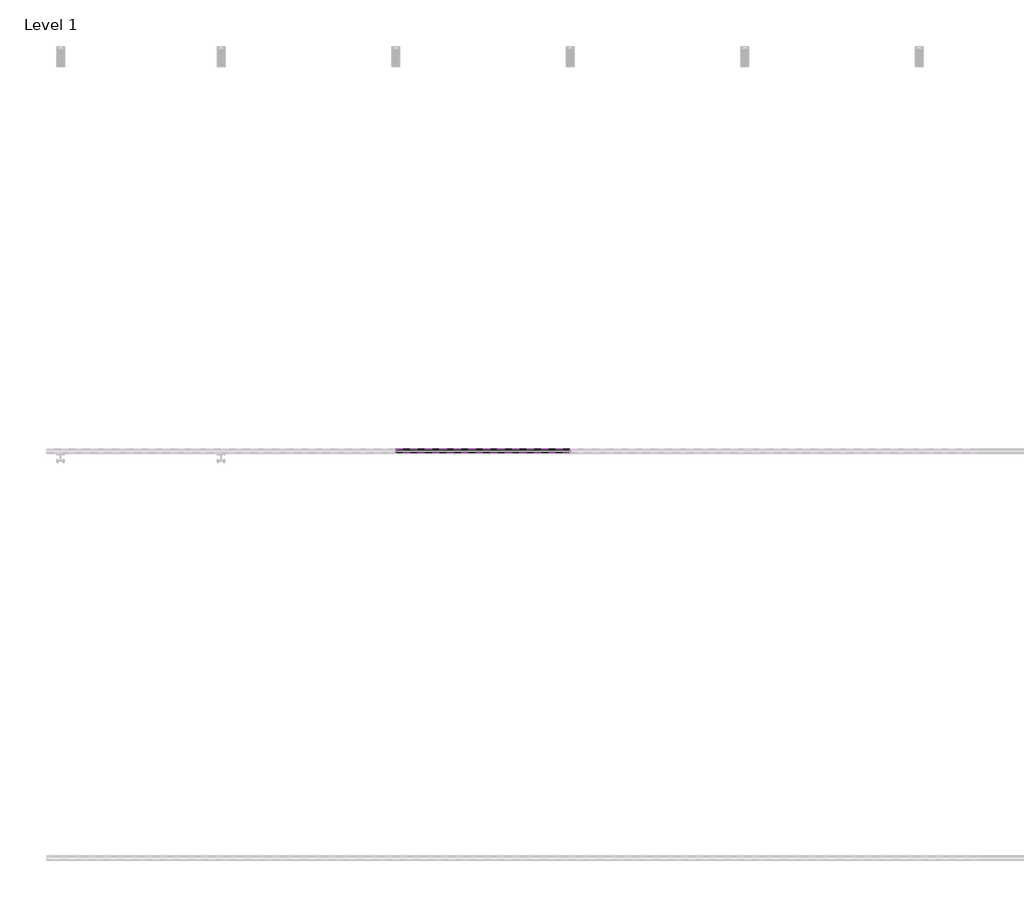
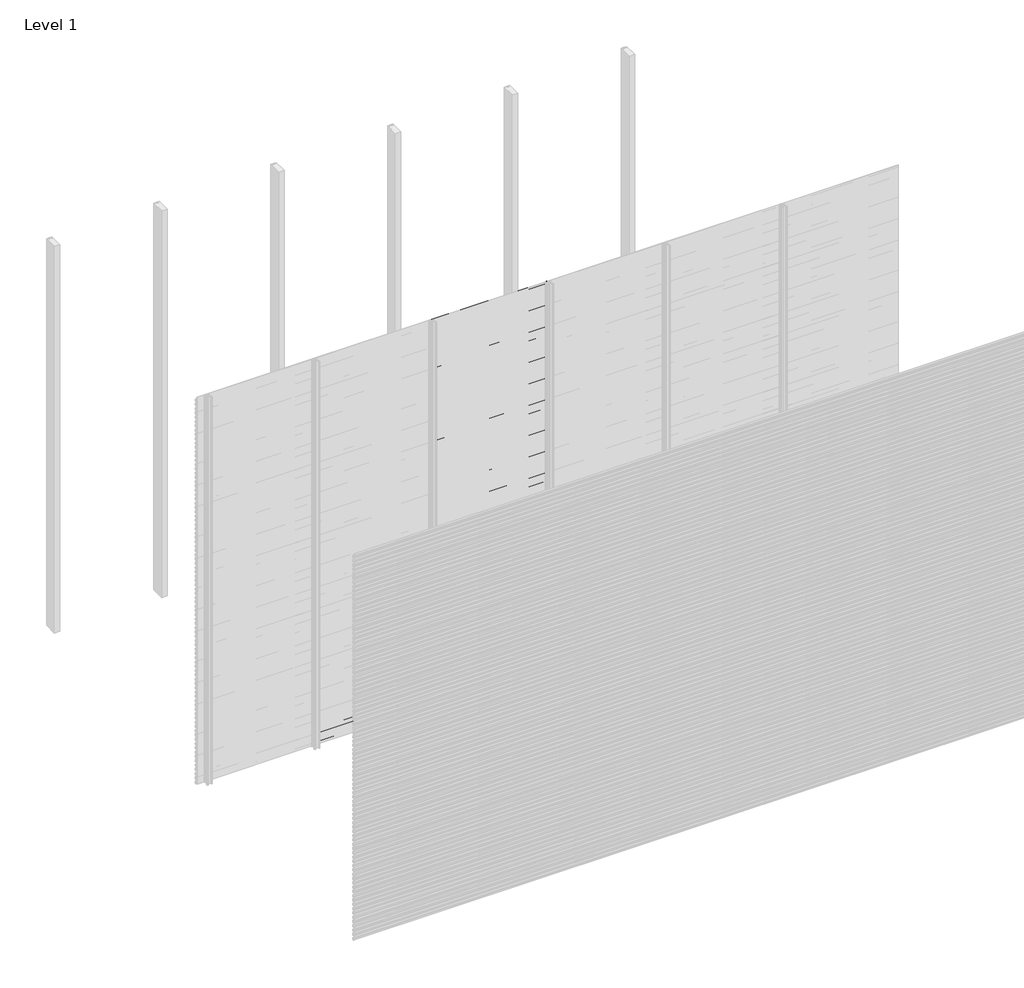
# One storey, part 26 of 96: 76 proxies.
"""IFC4 building model written with IfcOpenShell, lengths in millimetres."""

import ifcopenshell
import ifcopenshell.guid

model = None  # the IFC model being written
_history = None  # IfcOwnerHistory: only IFC2X3 demands one
_inside = {}  # id of a spatial element -> (the spatial element, [elements in it])
_under = {}  # id of a project, library or spatial element -> (it, [spatial elements below it])
_declared = {}  # id of a project -> (the project, [libraries it declares])
_typed = {}  # id of a type object -> (the type object, [elements of that type])
_made_of = {}  # id of a material, layer set ... -> (it, [elements and type objects made of it])


def new_model(schema):
    """Start an empty IFC model of exactly this schema.

    Asked for "IFC4X3", IfcOpenShell would pick the latest addendum, in which some entities
    have other attributes; the version numbers below select the first issue.
    IFC2X3 requires an IfcOwnerHistory on every rooted entity: one is made here for all.
    """
    global model, _history
    if schema == "IFC4X3":
        model = ifcopenshell.file(schema_version=(4, 3, 0, 0))
    else:
        model = ifcopenshell.file(schema=schema)
    _inside.clear()
    _under.clear()
    _declared.clear()
    _typed.clear()
    _made_of.clear()
    _history = None
    if model.schema == "IFC2X3":
        org = make("IfcOrganization", Name="unknown")
        user = make(
            "IfcPersonAndOrganization",
            ThePerson=make("IfcPerson", FamilyName="unknown"),
            TheOrganization=org,
        )
        app = make(
            "IfcApplication",
            ApplicationDeveloper=org,
            Version="unknown",
            ApplicationFullName="unknown",
            ApplicationIdentifier="unknown",
        )
        _history = make(
            "IfcOwnerHistory",
            OwningUser=user,
            OwningApplication=app,
            ChangeAction="ADDED",
            CreationDate=0,
        )
    return model


def make(cls, **values):
    """One entity of the class cls with the attributes given. An attribute that is None is left unset."""
    return model.create_entity(
        cls, **{name: value for name, value in values.items() if value is not None}
    )


def rooted(cls, **values):
    """An entity with a GlobalId (a new one), such as an element, a storey or a relation."""
    return make(cls, GlobalId=ifcopenshell.guid.new(), OwnerHistory=_history, **values)


def si_unit(unit_type, name, prefix=None):
    """IfcSIUnit, for example si_unit("LENGTHUNIT", "METRE", prefix="MILLI")."""
    return make("IfcSIUnit", UnitType=unit_type, Prefix=prefix, Name=name)


def assignment(units):
    """IfcUnitAssignment: the units of a project."""
    return None if units is None else make("IfcUnitAssignment", Units=units)


def point(xyz):
    """IfcCartesianPoint."""
    return None if xyz is None else make("IfcCartesianPoint", Coordinates=xyz)


def direction(xyz):
    """IfcDirection."""
    return None if xyz is None else make("IfcDirection", DirectionRatios=xyz)


def frame(location, z_axis=None, x_axis=None):
    """IfcAxis2Placement3D, a coordinate frame: its origin and axes. An axis left out is left unset."""
    return make(
        "IfcAxis2Placement3D",
        Location=point(location),
        Axis=direction(z_axis),
        RefDirection=direction(x_axis),
    )


def origin():
    """The frame at (0, 0, 0) with its axes left unset."""
    return frame((0.0, 0.0, 0.0))


def place(relative_to, where):
    """IfcLocalPlacement: puts the frame where relative to a parent placement (None: the world)."""
    return make(
        "IfcLocalPlacement", PlacementRelTo=relative_to, RelativePlacement=where
    )


def context(
    kind, dimensions, precision=None, world=None, true_north=None, identifier=None
):
    """IfcGeometricRepresentationContext, for example the 3D "Model" context."""
    return make(
        "IfcGeometricRepresentationContext",
        ContextIdentifier=identifier,
        ContextType=kind,
        CoordinateSpaceDimension=dimensions,
        Precision=precision,
        WorldCoordinateSystem=world,
        TrueNorth=true_north,
    )


def project(units=None, contexts=None):
    """IfcProject with its units and contexts."""
    return rooted(
        "IfcProject",
        Name="project",
        RepresentationContexts=contexts,
        UnitsInContext=assignment(units),
    )


def spatial(cls, under=None, at=None, **own):
    """A site, building, storey or space (cls), placed at a placement, below another one or the project."""
    s = rooted(cls, ObjectPlacement=at, **own)
    if under is not None:
        _under.setdefault(under.id(), (under, []))[1].append(s)
    return s


def polyline(points):
    """IfcPolyline through the points."""
    return make("IfcPolyline", Points=[point(p) for p in points])


def outline(outer, holes=None, kind="AREA"):
    """IfcArbitraryClosedProfileDef: a profile drawn as a closed curve; with holes, ...WithVoids."""
    if holes is None:
        return make("IfcArbitraryClosedProfileDef", ProfileType=kind, OuterCurve=outer)
    return make(
        "IfcArbitraryProfileDefWithVoids",
        ProfileType=kind,
        OuterCurve=outer,
        InnerCurves=holes,
    )


def extrude(swept, where, along, depth):
    """IfcExtrudedAreaSolid: the profile swept, set in the frame where, extruded along a direction by depth."""
    return make(
        "IfcExtrudedAreaSolid",
        SweptArea=swept,
        Position=where,
        ExtrudedDirection=direction(along),
        Depth=depth,
    )


def shape(context_of_items, identifier, shape_type, items):
    """IfcShapeRepresentation: the items that make up one representation, for example the "Body"."""
    return make(
        "IfcShapeRepresentation",
        ContextOfItems=context_of_items,
        RepresentationIdentifier=identifier,
        RepresentationType=shape_type,
        Items=items,
    )


def made_of(thing, what):
    """Note that an element or type object is made of a material, layer set ...; save() writes the relation."""
    if what is not None:
        _made_of.setdefault(what.id(), (what, []))[1].append(thing)
    return thing


def element(
    cls,
    number,
    at=None,
    inside=None,
    cuts=None,
    type_object=None,
    material=None,
    context=None,
    identifier="Body",
    shape_type=None,
    held_by="IfcProductDefinitionShape",
    body=None,
    shapes=None,
    **own,
):
    """One element of the class cls, such as IfcWall. Its Tag is "e" and its number.

    at: its placement. inside: the storey or other place that contains it. cuts: it is an
    opening in that element (IfcRelVoidsElement). A single representation is given by context,
    identifier, shape_type and body (its items); several are given by shapes. held_by: the class
    of the entity that holds the representations. save() writes the other relations.
    """
    e = rooted(cls, Tag="e%d" % number, ObjectPlacement=at, **own)
    if body is not None:
        shapes = [shape(context, identifier, shape_type, body)]
    if shapes is not None:
        e.Representation = make(held_by, Representations=shapes)
    if inside is not None:
        _inside.setdefault(inside.id(), (inside, []))[1].append(e)
    if cuts is not None:
        rooted(
            "IfcRelVoidsElement", RelatingBuildingElement=cuts, RelatedOpeningElement=e
        )
    if type_object is not None:
        _typed.setdefault(type_object.id(), (type_object, []))[1].append(e)
    return made_of(e, material)


def aggregate(whole, parts):
    """IfcRelAggregates: a whole, such as a stair, and the parts it consists of."""
    return rooted("IfcRelAggregates", RelatingObject=whole, RelatedObjects=parts)


def save(model, path):
    """Write the relations noted so far, then the file.

    IfcRelAggregates (storeys below a building ...), IfcRelContainedInSpatialStructure (elements
    in a storey), IfcRelDefinesByType, IfcRelAssociatesMaterial and IfcRelDeclares: one each for
    every whole, place, type object, material and project.
    """
    for whole, parts in _under.values():
        aggregate(whole, parts)
    for where, things in _inside.values():
        rooted(
            "IfcRelContainedInSpatialStructure",
            RelatedElements=things,
            RelatingStructure=where,
        )
    for kind, things in _typed.values():
        rooted("IfcRelDefinesByType", RelatedObjects=things, RelatingType=kind)
    for what, things in _made_of.values():
        rooted("IfcRelAssociatesMaterial", RelatedObjects=things, RelatingMaterial=what)
    for by, libraries in _declared.values():
        rooted("IfcRelDeclares", RelatingContext=by, RelatedDefinitions=libraries)
    model.write(path)


model = new_model("IFC4")

# Units and contexts
model_context = context("Model", 3, world=origin())
ifc_project = project(units=[si_unit("LENGTHUNIT", "METRE", prefix="MILLI")], contexts=[model_context])

# Site, building, storey
site = spatial("IfcSite", under=ifc_project)
building = spatial("IfcBuilding", under=site)
storey = spatial("IfcBuildingStorey", under=building, Name="Level 1", Elevation=0.0)

# Proxies
placement = place(None, origin())
element("IfcBuildingElementProxy", 1, Name="Wall Sweeps", at=placement, inside=storey, context=model_context, shape_type="SweptSolid", body=[
    extrude(outline(polyline([(-41977.6, 207.8655033), (-41977.6, 193.5779188), (-41982.4114965, 190.8), (-41982.4114965, 192.0701706), (-41978.85, 194.1264016), (-41978.85, 207.1437382), (-41998.0, 218.2000799), (-41998.0, 233.1), (-41996.75, 233.1), (-41996.75, 218.9217609), (-41977.6, 207.8655033)])), frame((857.1428571, 0.0, 0.0), z_axis=(1.0, 0.0, 0.0), x_axis=(0.0, 1.0, 0.0)), (0.0, 0.0, 1.0), 857.1428571),
])
element("IfcBuildingElementProxy", 2, Name="Wall Sweeps", at=placement, inside=storey, context=model_context, shape_type="SweptSolid", body=[
    extrude(outline(polyline([(-41977.6, 174.5655033), (-41977.6, 160.2779188), (-41982.4114965, 157.5), (-41982.4114965, 158.7701706), (-41978.85, 160.8264016), (-41978.85, 173.8437382), (-41998.0, 184.9000799), (-41998.0, 199.8), (-41996.75, 199.8), (-41996.75, 185.6217609), (-41977.6, 174.5655033)])), frame((857.1428571, 0.0, 0.0), z_axis=(1.0, 0.0, 0.0), x_axis=(0.0, 1.0, 0.0)), (0.0, 0.0, 1.0), 857.1428571),
])
element("IfcBuildingElementProxy", 3, Name="Wall Sweeps", at=placement, inside=storey, context=model_context, shape_type="SweptSolid", body=[
    extrude(outline(polyline([(-41977.6, 141.2655033), (-41977.6, 126.9779188), (-41982.4114965, 124.2), (-41982.4114965, 125.4701706), (-41978.85, 127.5264016), (-41978.85, 140.5437382), (-41998.0, 151.6000799), (-41998.0, 166.5), (-41996.75, 166.5), (-41996.75, 152.3217609), (-41977.6, 141.2655033)])), frame((857.1428571, 0.0, 0.0), z_axis=(1.0, 0.0, 0.0), x_axis=(0.0, 1.0, 0.0)), (0.0, 0.0, 1.0), 857.1428571),
])
element("IfcBuildingElementProxy", 4, Name="Wall Sweeps", at=placement, inside=storey, context=model_context, shape_type="SweptSolid", body=[
    extrude(outline(polyline([(-41977.6, 107.9655033), (-41977.6, 93.6779188), (-41982.4114965, 90.9), (-41982.4114965, 92.1701706), (-41978.85, 94.2264016), (-41978.85, 107.2437382), (-41998.0, 118.3000799), (-41998.0, 133.2), (-41996.75, 133.2), (-41996.75, 119.0217609), (-41977.6, 107.9655033)])), frame((857.1428571, 0.0, 0.0), z_axis=(1.0, 0.0, 0.0), x_axis=(0.0, 1.0, 0.0)), (0.0, 0.0, 1.0), 857.1428571),
])
element("IfcBuildingElementProxy", 5, Name="Wall Sweeps", at=placement, inside=storey, context=model_context, shape_type="SweptSolid", body=[
    extrude(outline(polyline([(-41977.6, 74.6655033), (-41977.6, 60.3779188), (-41982.4114965, 57.6), (-41982.4114965, 58.8701706), (-41978.85, 60.9264016), (-41978.85, 73.9437382), (-41998.0, 85.0000799), (-41998.0, 99.9), (-41996.75, 99.9), (-41996.75, 85.7217609), (-41977.6, 74.6655033)])), frame((857.1428571, 0.0, 0.0), z_axis=(1.0, 0.0, 0.0), x_axis=(0.0, 1.0, 0.0)), (0.0, 0.0, 1.0), 857.1428571),
])
element("IfcBuildingElementProxy", 6, Name="Wall Sweeps", at=placement, inside=storey, context=model_context, shape_type="SweptSolid", body=[
    extrude(outline(polyline([(-41977.6, 41.3655033), (-41977.6, 27.0779188), (-41982.4114965, 24.3), (-41982.4114965, 25.5701706), (-41978.85, 27.6264016), (-41978.85, 40.6437382), (-41998.0, 51.7000799), (-41998.0, 66.6), (-41996.75, 66.6), (-41996.75, 52.4217609), (-41977.6, 41.3655033)])), frame((857.1428571, 0.0, 0.0), z_axis=(1.0, 0.0, 0.0), x_axis=(0.0, 1.0, 0.0)), (0.0, 0.0, 1.0), 857.1428571),
])
element("IfcBuildingElementProxy", 7, Name="Wall Sweeps", at=placement, inside=storey, context=model_context, shape_type="SweptSolid", body=[
    extrude(outline(polyline([(-41977.6, 8.0655033), (-41977.6, -6.2220812), (-41982.4114965, -9.0), (-41982.4114965, -7.7298294), (-41978.85, -5.6735984), (-41978.85, 7.3437382), (-41998.0, 18.4000799), (-41998.0, 33.3), (-41996.75, 33.3), (-41996.75, 19.1217609), (-41977.6, 8.0655033)])), frame((857.1428571, 0.0, 0.0), z_axis=(1.0, 0.0, 0.0), x_axis=(0.0, 1.0, 0.0)), (0.0, 0.0, 1.0), 857.1428571),
])
element("IfcBuildingElementProxy", 8, Name="Wall Sweeps", at=placement, inside=storey, context=model_context, shape_type="SweptSolid", body=[
    extrude(outline(polyline([(-41977.6, 2971.7655033), (-41977.6, 2957.4779188), (-41982.4114965, 2954.7), (-41982.4114965, 2955.9701706), (-41978.85, 2958.0264016), (-41978.85, 2971.0437382), (-41998.0, 2982.1000799), (-41998.0, 2997.0), (-41996.75, 2997.0), (-41996.75, 2982.8217609), (-41977.6, 2971.7655033)])), frame((1714.2857143, 0.0, 0.0), z_axis=(1.0, 0.0, 0.0), x_axis=(0.0, 1.0, 0.0)), (0.0, 0.0, 1.0), 857.1428571),
])
element("IfcBuildingElementProxy", 9, Name="Wall Sweeps", at=placement, inside=storey, context=model_context, shape_type="SweptSolid", body=[
    extrude(outline(polyline([(-41977.6, 2938.4655033), (-41977.6, 2924.1779188), (-41982.4114965, 2921.4), (-41982.4114965, 2922.6701706), (-41978.85, 2924.7264016), (-41978.85, 2937.7437382), (-41998.0, 2948.8000799), (-41998.0, 2963.7), (-41996.75, 2963.7), (-41996.75, 2949.5217609), (-41977.6, 2938.4655033)])), frame((1714.2857143, 0.0, 0.0), z_axis=(1.0, 0.0, 0.0), x_axis=(0.0, 1.0, 0.0)), (0.0, 0.0, 1.0), 857.1428571),
])
element("IfcBuildingElementProxy", 10, Name="Wall Sweeps", at=placement, inside=storey, context=model_context, shape_type="SweptSolid", body=[
    extrude(outline(polyline([(-41977.6, 2905.1655033), (-41977.6, 2890.8779188), (-41982.4114965, 2888.1), (-41982.4114965, 2889.3701706), (-41978.85, 2891.4264016), (-41978.85, 2904.4437382), (-41998.0, 2915.5000799), (-41998.0, 2930.4), (-41996.75, 2930.4), (-41996.75, 2916.2217609), (-41977.6, 2905.1655033)])), frame((1714.2857143, 0.0, 0.0), z_axis=(1.0, 0.0, 0.0), x_axis=(0.0, 1.0, 0.0)), (0.0, 0.0, 1.0), 857.1428571),
])
element("IfcBuildingElementProxy", 11, Name="Wall Sweeps", at=placement, inside=storey, context=model_context, shape_type="SweptSolid", body=[
    extrude(outline(polyline([(-41977.6, 2871.8655033), (-41977.6, 2857.5779188), (-41982.4114965, 2854.8), (-41982.4114965, 2856.0701706), (-41978.85, 2858.1264016), (-41978.85, 2871.1437382), (-41998.0, 2882.2000799), (-41998.0, 2897.1), (-41996.75, 2897.1), (-41996.75, 2882.9217609), (-41977.6, 2871.8655033)])), frame((1714.2857143, 0.0, 0.0), z_axis=(1.0, 0.0, 0.0), x_axis=(0.0, 1.0, 0.0)), (0.0, 0.0, 1.0), 857.1428571),
])
element("IfcBuildingElementProxy", 12, Name="Wall Sweeps", at=placement, inside=storey, context=model_context, shape_type="SweptSolid", body=[
    extrude(outline(polyline([(-41977.6, 2838.5655033), (-41977.6, 2824.2779188), (-41982.4114965, 2821.5), (-41982.4114965, 2822.7701706), (-41978.85, 2824.8264016), (-41978.85, 2837.8437382), (-41998.0, 2848.9000799), (-41998.0, 2863.8), (-41996.75, 2863.8), (-41996.75, 2849.6217609), (-41977.6, 2838.5655033)])), frame((1714.2857143, 0.0, 0.0), z_axis=(1.0, 0.0, 0.0), x_axis=(0.0, 1.0, 0.0)), (0.0, 0.0, 1.0), 857.1428571),
])
element("IfcBuildingElementProxy", 13, Name="Wall Sweeps", at=placement, inside=storey, context=model_context, shape_type="SweptSolid", body=[
    extrude(outline(polyline([(-41977.6, 2805.2655033), (-41977.6, 2790.9779188), (-41982.4114965, 2788.2), (-41982.4114965, 2789.4701706), (-41978.85, 2791.5264016), (-41978.85, 2804.5437382), (-41998.0, 2815.6000799), (-41998.0, 2830.5), (-41996.75, 2830.5), (-41996.75, 2816.3217609), (-41977.6, 2805.2655033)])), frame((1714.2857143, 0.0, 0.0), z_axis=(1.0, 0.0, 0.0), x_axis=(0.0, 1.0, 0.0)), (0.0, 0.0, 1.0), 857.1428571),
])
element("IfcBuildingElementProxy", 14, Name="Wall Sweeps", at=placement, inside=storey, context=model_context, shape_type="SweptSolid", body=[
    extrude(outline(polyline([(-41977.6, 2771.9655033), (-41977.6, 2757.6779188), (-41982.4114965, 2754.9), (-41982.4114965, 2756.1701706), (-41978.85, 2758.2264016), (-41978.85, 2771.2437382), (-41998.0, 2782.3000799), (-41998.0, 2797.2), (-41996.75, 2797.2), (-41996.75, 2783.0217609), (-41977.6, 2771.9655033)])), frame((1714.2857143, 0.0, 0.0), z_axis=(1.0, 0.0, 0.0), x_axis=(0.0, 1.0, 0.0)), (0.0, 0.0, 1.0), 857.1428571),
])
element("IfcBuildingElementProxy", 15, Name="Wall Sweeps", at=placement, inside=storey, context=model_context, shape_type="SweptSolid", body=[
    extrude(outline(polyline([(-41977.6, 2738.6655033), (-41977.6, 2724.3779188), (-41982.4114965, 2721.6), (-41982.4114965, 2722.8701706), (-41978.85, 2724.9264016), (-41978.85, 2737.9437382), (-41998.0, 2749.0000799), (-41998.0, 2763.9), (-41996.75, 2763.9), (-41996.75, 2749.7217609), (-41977.6, 2738.6655033)])), frame((1714.2857143, 0.0, 0.0), z_axis=(1.0, 0.0, 0.0), x_axis=(0.0, 1.0, 0.0)), (0.0, 0.0, 1.0), 857.1428571),
])
element("IfcBuildingElementProxy", 16, Name="Wall Sweeps", at=placement, inside=storey, context=model_context, shape_type="SweptSolid", body=[
    extrude(outline(polyline([(-41977.6, 2705.3655033), (-41977.6, 2691.0779188), (-41982.4114965, 2688.3), (-41982.4114965, 2689.5701706), (-41978.85, 2691.6264016), (-41978.85, 2704.6437382), (-41998.0, 2715.7000799), (-41998.0, 2730.6), (-41996.75, 2730.6), (-41996.75, 2716.4217609), (-41977.6, 2705.3655033)])), frame((1714.2857143, 0.0, 0.0), z_axis=(1.0, 0.0, 0.0), x_axis=(0.0, 1.0, 0.0)), (0.0, 0.0, 1.0), 857.1428571),
])
element("IfcBuildingElementProxy", 17, Name="Wall Sweeps", at=placement, inside=storey, context=model_context, shape_type="SweptSolid", body=[
    extrude(outline(polyline([(-41977.6, 2672.0655033), (-41977.6, 2657.7779188), (-41982.4114965, 2655.0), (-41982.4114965, 2656.2701706), (-41978.85, 2658.3264016), (-41978.85, 2671.3437382), (-41998.0, 2682.4000799), (-41998.0, 2697.3), (-41996.75, 2697.3), (-41996.75, 2683.1217609), (-41977.6, 2672.0655033)])), frame((1714.2857143, 0.0, 0.0), z_axis=(1.0, 0.0, 0.0), x_axis=(0.0, 1.0, 0.0)), (0.0, 0.0, 1.0), 857.1428571),
])
element("IfcBuildingElementProxy", 18, Name="Wall Sweeps", at=placement, inside=storey, context=model_context, shape_type="SweptSolid", body=[
    extrude(outline(polyline([(-41977.6, 2638.7655033), (-41977.6, 2624.4779188), (-41982.4114965, 2621.7), (-41982.4114965, 2622.9701706), (-41978.85, 2625.0264016), (-41978.85, 2638.0437382), (-41998.0, 2649.1000799), (-41998.0, 2664.0), (-41996.75, 2664.0), (-41996.75, 2649.8217609), (-41977.6, 2638.7655033)])), frame((1714.2857143, 0.0, 0.0), z_axis=(1.0, 0.0, 0.0), x_axis=(0.0, 1.0, 0.0)), (0.0, 0.0, 1.0), 857.1428571),
])
element("IfcBuildingElementProxy", 19, Name="Wall Sweeps", at=placement, inside=storey, context=model_context, shape_type="SweptSolid", body=[
    extrude(outline(polyline([(-41977.6, 2605.4655033), (-41977.6, 2591.1779188), (-41982.4114965, 2588.4), (-41982.4114965, 2589.6701706), (-41978.85, 2591.7264016), (-41978.85, 2604.7437382), (-41998.0, 2615.8000799), (-41998.0, 2630.7), (-41996.75, 2630.7), (-41996.75, 2616.5217609), (-41977.6, 2605.4655033)])), frame((1714.2857143, 0.0, 0.0), z_axis=(1.0, 0.0, 0.0), x_axis=(0.0, 1.0, 0.0)), (0.0, 0.0, 1.0), 857.1428571),
])
element("IfcBuildingElementProxy", 20, Name="Wall Sweeps", at=placement, inside=storey, context=model_context, shape_type="SweptSolid", body=[
    extrude(outline(polyline([(-41977.6, 2572.1655033), (-41977.6, 2557.8779188), (-41982.4114965, 2555.1), (-41982.4114965, 2556.3701706), (-41978.85, 2558.4264016), (-41978.85, 2571.4437382), (-41998.0, 2582.5000799), (-41998.0, 2597.4), (-41996.75, 2597.4), (-41996.75, 2583.2217609), (-41977.6, 2572.1655033)])), frame((1714.2857143, 0.0, 0.0), z_axis=(1.0, 0.0, 0.0), x_axis=(0.0, 1.0, 0.0)), (0.0, 0.0, 1.0), 857.1428571),
])
element("IfcBuildingElementProxy", 21, Name="Wall Sweeps", at=placement, inside=storey, context=model_context, shape_type="SweptSolid", body=[
    extrude(outline(polyline([(-41977.6, 2538.8655033), (-41977.6, 2524.5779188), (-41982.4114965, 2521.8), (-41982.4114965, 2523.0701706), (-41978.85, 2525.1264016), (-41978.85, 2538.1437382), (-41998.0, 2549.2000799), (-41998.0, 2564.1), (-41996.75, 2564.1), (-41996.75, 2549.9217609), (-41977.6, 2538.8655033)])), frame((1714.2857143, 0.0, 0.0), z_axis=(1.0, 0.0, 0.0), x_axis=(0.0, 1.0, 0.0)), (0.0, 0.0, 1.0), 857.1428571),
])
element("IfcBuildingElementProxy", 22, Name="Wall Sweeps", at=placement, inside=storey, context=model_context, shape_type="SweptSolid", body=[
    extrude(outline(polyline([(-41977.6, 2505.5655033), (-41977.6, 2491.2779188), (-41982.4114965, 2488.5), (-41982.4114965, 2489.7701706), (-41978.85, 2491.8264016), (-41978.85, 2504.8437382), (-41998.0, 2515.9000799), (-41998.0, 2530.8), (-41996.75, 2530.8), (-41996.75, 2516.6217609), (-41977.6, 2505.5655033)])), frame((1714.2857143, 0.0, 0.0), z_axis=(1.0, 0.0, 0.0), x_axis=(0.0, 1.0, 0.0)), (0.0, 0.0, 1.0), 857.1428571),
])
element("IfcBuildingElementProxy", 23, Name="Wall Sweeps", at=placement, inside=storey, context=model_context, shape_type="SweptSolid", body=[
    extrude(outline(polyline([(-41977.6, 2472.2655033), (-41977.6, 2457.9779188), (-41982.4114965, 2455.2), (-41982.4114965, 2456.4701706), (-41978.85, 2458.5264016), (-41978.85, 2471.5437382), (-41998.0, 2482.6000799), (-41998.0, 2497.5), (-41996.75, 2497.5), (-41996.75, 2483.3217609), (-41977.6, 2472.2655033)])), frame((1714.2857143, 0.0, 0.0), z_axis=(1.0, 0.0, 0.0), x_axis=(0.0, 1.0, 0.0)), (0.0, 0.0, 1.0), 857.1428571),
])
element("IfcBuildingElementProxy", 24, Name="Wall Sweeps", at=placement, inside=storey, context=model_context, shape_type="SweptSolid", body=[
    extrude(outline(polyline([(-41977.6, 2438.9655033), (-41977.6, 2424.6779188), (-41982.4114965, 2421.9), (-41982.4114965, 2423.1701706), (-41978.85, 2425.2264016), (-41978.85, 2438.2437382), (-41998.0, 2449.3000799), (-41998.0, 2464.2), (-41996.75, 2464.2), (-41996.75, 2450.0217609), (-41977.6, 2438.9655033)])), frame((1714.2857143, 0.0, 0.0), z_axis=(1.0, 0.0, 0.0), x_axis=(0.0, 1.0, 0.0)), (0.0, 0.0, 1.0), 857.1428571),
])
element("IfcBuildingElementProxy", 25, Name="Wall Sweeps", at=placement, inside=storey, context=model_context, shape_type="SweptSolid", body=[
    extrude(outline(polyline([(-41977.6, 2405.6655033), (-41977.6, 2391.3779188), (-41982.4114965, 2388.6), (-41982.4114965, 2389.8701706), (-41978.85, 2391.9264016), (-41978.85, 2404.9437382), (-41998.0, 2416.0000799), (-41998.0, 2430.9), (-41996.75, 2430.9), (-41996.75, 2416.7217609), (-41977.6, 2405.6655033)])), frame((1714.2857143, 0.0, 0.0), z_axis=(1.0, 0.0, 0.0), x_axis=(0.0, 1.0, 0.0)), (0.0, 0.0, 1.0), 857.1428571),
])
element("IfcBuildingElementProxy", 26, Name="Wall Sweeps", at=placement, inside=storey, context=model_context, shape_type="SweptSolid", body=[
    extrude(outline(polyline([(-41977.6, 2372.3655033), (-41977.6, 2358.0779188), (-41982.4114965, 2355.3), (-41982.4114965, 2356.5701706), (-41978.85, 2358.6264016), (-41978.85, 2371.6437382), (-41998.0, 2382.7000799), (-41998.0, 2397.6), (-41996.75, 2397.6), (-41996.75, 2383.4217609), (-41977.6, 2372.3655033)])), frame((1714.2857143, 0.0, 0.0), z_axis=(1.0, 0.0, 0.0), x_axis=(0.0, 1.0, 0.0)), (0.0, 0.0, 1.0), 857.1428571),
])
element("IfcBuildingElementProxy", 27, Name="Wall Sweeps", at=placement, inside=storey, context=model_context, shape_type="SweptSolid", body=[
    extrude(outline(polyline([(-41977.6, 2339.0655033), (-41977.6, 2324.7779188), (-41982.4114965, 2322.0), (-41982.4114965, 2323.2701706), (-41978.85, 2325.3264016), (-41978.85, 2338.3437382), (-41998.0, 2349.4000799), (-41998.0, 2364.3), (-41996.75, 2364.3), (-41996.75, 2350.1217609), (-41977.6, 2339.0655033)])), frame((1714.2857143, 0.0, 0.0), z_axis=(1.0, 0.0, 0.0), x_axis=(0.0, 1.0, 0.0)), (0.0, 0.0, 1.0), 857.1428571),
])
element("IfcBuildingElementProxy", 28, Name="Wall Sweeps", at=placement, inside=storey, context=model_context, shape_type="SweptSolid", body=[
    extrude(outline(polyline([(-41977.6, 2305.7655033), (-41977.6, 2291.4779188), (-41982.4114965, 2288.7), (-41982.4114965, 2289.9701706), (-41978.85, 2292.0264016), (-41978.85, 2305.0437382), (-41998.0, 2316.1000799), (-41998.0, 2331.0), (-41996.75, 2331.0), (-41996.75, 2316.8217609), (-41977.6, 2305.7655033)])), frame((1714.2857143, 0.0, 0.0), z_axis=(1.0, 0.0, 0.0), x_axis=(0.0, 1.0, 0.0)), (0.0, 0.0, 1.0), 857.1428571),
])
element("IfcBuildingElementProxy", 29, Name="Wall Sweeps", at=placement, inside=storey, context=model_context, shape_type="SweptSolid", body=[
    extrude(outline(polyline([(-41977.6, 2272.4655033), (-41977.6, 2258.1779188), (-41982.4114965, 2255.4), (-41982.4114965, 2256.6701706), (-41978.85, 2258.7264016), (-41978.85, 2271.7437382), (-41998.0, 2282.8000799), (-41998.0, 2297.7), (-41996.75, 2297.7), (-41996.75, 2283.5217609), (-41977.6, 2272.4655033)])), frame((1714.2857143, 0.0, 0.0), z_axis=(1.0, 0.0, 0.0), x_axis=(0.0, 1.0, 0.0)), (0.0, 0.0, 1.0), 857.1428571),
])
element("IfcBuildingElementProxy", 30, Name="Wall Sweeps", at=placement, inside=storey, context=model_context, shape_type="SweptSolid", body=[
    extrude(outline(polyline([(-41977.6, 2239.1655033), (-41977.6, 2224.8779188), (-41982.4114965, 2222.1), (-41982.4114965, 2223.3701706), (-41978.85, 2225.4264016), (-41978.85, 2238.4437382), (-41998.0, 2249.5000799), (-41998.0, 2264.4), (-41996.75, 2264.4), (-41996.75, 2250.2217609), (-41977.6, 2239.1655033)])), frame((1714.2857143, 0.0, 0.0), z_axis=(1.0, 0.0, 0.0), x_axis=(0.0, 1.0, 0.0)), (0.0, 0.0, 1.0), 857.1428571),
])
element("IfcBuildingElementProxy", 31, Name="Wall Sweeps", at=placement, inside=storey, context=model_context, shape_type="SweptSolid", body=[
    extrude(outline(polyline([(-41977.6, 2205.8655033), (-41977.6, 2191.5779188), (-41982.4114965, 2188.8), (-41982.4114965, 2190.0701706), (-41978.85, 2192.1264016), (-41978.85, 2205.1437382), (-41998.0, 2216.2000799), (-41998.0, 2231.1), (-41996.75, 2231.1), (-41996.75, 2216.9217609), (-41977.6, 2205.8655033)])), frame((1714.2857143, 0.0, 0.0), z_axis=(1.0, 0.0, 0.0), x_axis=(0.0, 1.0, 0.0)), (0.0, 0.0, 1.0), 857.1428571),
])
element("IfcBuildingElementProxy", 32, Name="Wall Sweeps", at=placement, inside=storey, context=model_context, shape_type="SweptSolid", body=[
    extrude(outline(polyline([(-41977.6, 2172.5655033), (-41977.6, 2158.2779188), (-41982.4114965, 2155.5), (-41982.4114965, 2156.7701706), (-41978.85, 2158.8264016), (-41978.85, 2171.8437382), (-41998.0, 2182.9000799), (-41998.0, 2197.8), (-41996.75, 2197.8), (-41996.75, 2183.6217609), (-41977.6, 2172.5655033)])), frame((1714.2857143, 0.0, 0.0), z_axis=(1.0, 0.0, 0.0), x_axis=(0.0, 1.0, 0.0)), (0.0, 0.0, 1.0), 857.1428571),
])
element("IfcBuildingElementProxy", 33, Name="Wall Sweeps", at=placement, inside=storey, context=model_context, shape_type="SweptSolid", body=[
    extrude(outline(polyline([(-41977.6, 2139.2655033), (-41977.6, 2124.9779188), (-41982.4114965, 2122.2), (-41982.4114965, 2123.4701706), (-41978.85, 2125.5264016), (-41978.85, 2138.5437382), (-41998.0, 2149.6000799), (-41998.0, 2164.5), (-41996.75, 2164.5), (-41996.75, 2150.3217609), (-41977.6, 2139.2655033)])), frame((1714.2857143, 0.0, 0.0), z_axis=(1.0, 0.0, 0.0), x_axis=(0.0, 1.0, 0.0)), (0.0, 0.0, 1.0), 857.1428571),
])
element("IfcBuildingElementProxy", 34, Name="Wall Sweeps", at=placement, inside=storey, context=model_context, shape_type="SweptSolid", body=[
    extrude(outline(polyline([(-41977.6, 2105.9655033), (-41977.6, 2091.6779188), (-41982.4114965, 2088.9), (-41982.4114965, 2090.1701706), (-41978.85, 2092.2264016), (-41978.85, 2105.2437382), (-41998.0, 2116.3000799), (-41998.0, 2131.2), (-41996.75, 2131.2), (-41996.75, 2117.0217609), (-41977.6, 2105.9655033)])), frame((1714.2857143, 0.0, 0.0), z_axis=(1.0, 0.0, 0.0), x_axis=(0.0, 1.0, 0.0)), (0.0, 0.0, 1.0), 857.1428571),
])
element("IfcBuildingElementProxy", 35, Name="Wall Sweeps", at=placement, inside=storey, context=model_context, shape_type="SweptSolid", body=[
    extrude(outline(polyline([(-41977.6, 2072.6655033), (-41977.6, 2058.3779188), (-41982.4114965, 2055.6), (-41982.4114965, 2056.8701706), (-41978.85, 2058.9264016), (-41978.85, 2071.9437382), (-41998.0, 2083.0000799), (-41998.0, 2097.9), (-41996.75, 2097.9), (-41996.75, 2083.7217609), (-41977.6, 2072.6655033)])), frame((1714.2857143, 0.0, 0.0), z_axis=(1.0, 0.0, 0.0), x_axis=(0.0, 1.0, 0.0)), (0.0, 0.0, 1.0), 857.1428571),
])
element("IfcBuildingElementProxy", 36, Name="Wall Sweeps", at=placement, inside=storey, context=model_context, shape_type="SweptSolid", body=[
    extrude(outline(polyline([(-41977.6, 2039.3655033), (-41977.6, 2025.0779188), (-41982.4114965, 2022.3), (-41982.4114965, 2023.5701706), (-41978.85, 2025.6264016), (-41978.85, 2038.6437382), (-41998.0, 2049.7000799), (-41998.0, 2064.6), (-41996.75, 2064.6), (-41996.75, 2050.4217609), (-41977.6, 2039.3655033)])), frame((1714.2857143, 0.0, 0.0), z_axis=(1.0, 0.0, 0.0), x_axis=(0.0, 1.0, 0.0)), (0.0, 0.0, 1.0), 857.1428571),
])
element("IfcBuildingElementProxy", 37, Name="Wall Sweeps", at=placement, inside=storey, context=model_context, shape_type="SweptSolid", body=[
    extrude(outline(polyline([(-41977.6, 2006.0655033), (-41977.6, 1991.7779188), (-41982.4114965, 1989.0), (-41982.4114965, 1990.2701706), (-41978.85, 1992.3264016), (-41978.85, 2005.3437382), (-41998.0, 2016.4000799), (-41998.0, 2031.3), (-41996.75, 2031.3), (-41996.75, 2017.1217609), (-41977.6, 2006.0655033)])), frame((1714.2857143, 0.0, 0.0), z_axis=(1.0, 0.0, 0.0), x_axis=(0.0, 1.0, 0.0)), (0.0, 0.0, 1.0), 857.1428571),
])
element("IfcBuildingElementProxy", 38, Name="Wall Sweeps", at=placement, inside=storey, context=model_context, shape_type="SweptSolid", body=[
    extrude(outline(polyline([(-41977.6, 1972.7655033), (-41977.6, 1958.4779188), (-41982.4114965, 1955.7), (-41982.4114965, 1956.9701706), (-41978.85, 1959.0264016), (-41978.85, 1972.0437382), (-41998.0, 1983.1000799), (-41998.0, 1998.0), (-41996.75, 1998.0), (-41996.75, 1983.8217609), (-41977.6, 1972.7655033)])), frame((1714.2857143, 0.0, 0.0), z_axis=(1.0, 0.0, 0.0), x_axis=(0.0, 1.0, 0.0)), (0.0, 0.0, 1.0), 857.1428571),
])
element("IfcBuildingElementProxy", 39, Name="Wall Sweeps", at=placement, inside=storey, context=model_context, shape_type="SweptSolid", body=[
    extrude(outline(polyline([(-41977.6, 1939.4655033), (-41977.6, 1925.1779188), (-41982.4114965, 1922.4), (-41982.4114965, 1923.6701706), (-41978.85, 1925.7264016), (-41978.85, 1938.7437382), (-41998.0, 1949.8000799), (-41998.0, 1964.7), (-41996.75, 1964.7), (-41996.75, 1950.5217609), (-41977.6, 1939.4655033)])), frame((1714.2857143, 0.0, 0.0), z_axis=(1.0, 0.0, 0.0), x_axis=(0.0, 1.0, 0.0)), (0.0, 0.0, 1.0), 857.1428571),
])
element("IfcBuildingElementProxy", 40, Name="Wall Sweeps", at=placement, inside=storey, context=model_context, shape_type="SweptSolid", body=[
    extrude(outline(polyline([(-41977.6, 1906.1655033), (-41977.6, 1891.8779188), (-41982.4114965, 1889.1), (-41982.4114965, 1890.3701706), (-41978.85, 1892.4264016), (-41978.85, 1905.4437382), (-41998.0, 1916.5000799), (-41998.0, 1931.4), (-41996.75, 1931.4), (-41996.75, 1917.2217609), (-41977.6, 1906.1655033)])), frame((1714.2857143, 0.0, 0.0), z_axis=(1.0, 0.0, 0.0), x_axis=(0.0, 1.0, 0.0)), (0.0, 0.0, 1.0), 857.1428571),
])
element("IfcBuildingElementProxy", 41, Name="Wall Sweeps", at=placement, inside=storey, context=model_context, shape_type="SweptSolid", body=[
    extrude(outline(polyline([(-41977.6, 1872.8655033), (-41977.6, 1858.5779188), (-41982.4114965, 1855.8), (-41982.4114965, 1857.0701706), (-41978.85, 1859.1264016), (-41978.85, 1872.1437382), (-41998.0, 1883.2000799), (-41998.0, 1898.1), (-41996.75, 1898.1), (-41996.75, 1883.9217609), (-41977.6, 1872.8655033)])), frame((1714.2857143, 0.0, 0.0), z_axis=(1.0, 0.0, 0.0), x_axis=(0.0, 1.0, 0.0)), (0.0, 0.0, 1.0), 857.1428571),
])
element("IfcBuildingElementProxy", 42, Name="Wall Sweeps", at=placement, inside=storey, context=model_context, shape_type="SweptSolid", body=[
    extrude(outline(polyline([(-41977.6, 1839.5655033), (-41977.6, 1825.2779188), (-41982.4114965, 1822.5), (-41982.4114965, 1823.7701706), (-41978.85, 1825.8264016), (-41978.85, 1838.8437382), (-41998.0, 1849.9000799), (-41998.0, 1864.8), (-41996.75, 1864.8), (-41996.75, 1850.6217609), (-41977.6, 1839.5655033)])), frame((1714.2857143, 0.0, 0.0), z_axis=(1.0, 0.0, 0.0), x_axis=(0.0, 1.0, 0.0)), (0.0, 0.0, 1.0), 857.1428571),
])
element("IfcBuildingElementProxy", 43, Name="Wall Sweeps", at=placement, inside=storey, context=model_context, shape_type="SweptSolid", body=[
    extrude(outline(polyline([(-41977.6, 1806.2655033), (-41977.6, 1791.9779188), (-41982.4114965, 1789.2), (-41982.4114965, 1790.4701706), (-41978.85, 1792.5264016), (-41978.85, 1805.5437382), (-41998.0, 1816.6000799), (-41998.0, 1831.5), (-41996.75, 1831.5), (-41996.75, 1817.3217609), (-41977.6, 1806.2655033)])), frame((1714.2857143, 0.0, 0.0), z_axis=(1.0, 0.0, 0.0), x_axis=(0.0, 1.0, 0.0)), (0.0, 0.0, 1.0), 857.1428571),
])
element("IfcBuildingElementProxy", 44, Name="Wall Sweeps", at=placement, inside=storey, context=model_context, shape_type="SweptSolid", body=[
    extrude(outline(polyline([(-41977.6, 1772.9655033), (-41977.6, 1758.6779188), (-41982.4114965, 1755.9), (-41982.4114965, 1757.1701706), (-41978.85, 1759.2264016), (-41978.85, 1772.2437382), (-41998.0, 1783.3000799), (-41998.0, 1798.2), (-41996.75, 1798.2), (-41996.75, 1784.0217609), (-41977.6, 1772.9655033)])), frame((1714.2857143, 0.0, 0.0), z_axis=(1.0, 0.0, 0.0), x_axis=(0.0, 1.0, 0.0)), (0.0, 0.0, 1.0), 857.1428571),
])
element("IfcBuildingElementProxy", 45, Name="Wall Sweeps", at=placement, inside=storey, context=model_context, shape_type="SweptSolid", body=[
    extrude(outline(polyline([(-41977.6, 1739.6655033), (-41977.6, 1725.3779188), (-41982.4114965, 1722.6), (-41982.4114965, 1723.8701706), (-41978.85, 1725.9264016), (-41978.85, 1738.9437382), (-41998.0, 1750.0000799), (-41998.0, 1764.9), (-41996.75, 1764.9), (-41996.75, 1750.7217609), (-41977.6, 1739.6655033)])), frame((1714.2857143, 0.0, 0.0), z_axis=(1.0, 0.0, 0.0), x_axis=(0.0, 1.0, 0.0)), (0.0, 0.0, 1.0), 857.1428571),
])
element("IfcBuildingElementProxy", 46, Name="Wall Sweeps", at=placement, inside=storey, context=model_context, shape_type="SweptSolid", body=[
    extrude(outline(polyline([(-41977.6, 1706.3655033), (-41977.6, 1692.0779188), (-41982.4114965, 1689.3), (-41982.4114965, 1690.5701706), (-41978.85, 1692.6264016), (-41978.85, 1705.6437382), (-41998.0, 1716.7000799), (-41998.0, 1731.6), (-41996.75, 1731.6), (-41996.75, 1717.4217609), (-41977.6, 1706.3655033)])), frame((1714.2857143, 0.0, 0.0), z_axis=(1.0, 0.0, 0.0), x_axis=(0.0, 1.0, 0.0)), (0.0, 0.0, 1.0), 857.1428571),
])
element("IfcBuildingElementProxy", 47, Name="Wall Sweeps", at=placement, inside=storey, context=model_context, shape_type="SweptSolid", body=[
    extrude(outline(polyline([(-41977.6, 1673.0655033), (-41977.6, 1658.7779188), (-41982.4114965, 1656.0), (-41982.4114965, 1657.2701706), (-41978.85, 1659.3264016), (-41978.85, 1672.3437382), (-41998.0, 1683.4000799), (-41998.0, 1698.3), (-41996.75, 1698.3), (-41996.75, 1684.1217609), (-41977.6, 1673.0655033)])), frame((1714.2857143, 0.0, 0.0), z_axis=(1.0, 0.0, 0.0), x_axis=(0.0, 1.0, 0.0)), (0.0, 0.0, 1.0), 857.1428571),
])
element("IfcBuildingElementProxy", 48, Name="Wall Sweeps", at=placement, inside=storey, context=model_context, shape_type="SweptSolid", body=[
    extrude(outline(polyline([(-41977.6, 1639.7655033), (-41977.6, 1625.4779188), (-41982.4114965, 1622.7), (-41982.4114965, 1623.9701706), (-41978.85, 1626.0264016), (-41978.85, 1639.0437382), (-41998.0, 1650.1000799), (-41998.0, 1665.0), (-41996.75, 1665.0), (-41996.75, 1650.8217609), (-41977.6, 1639.7655033)])), frame((1714.2857143, 0.0, 0.0), z_axis=(1.0, 0.0, 0.0), x_axis=(0.0, 1.0, 0.0)), (0.0, 0.0, 1.0), 857.1428571),
])
element("IfcBuildingElementProxy", 49, Name="Wall Sweeps", at=placement, inside=storey, context=model_context, shape_type="SweptSolid", body=[
    extrude(outline(polyline([(-41977.6, 1606.4655033), (-41977.6, 1592.1779188), (-41982.4114965, 1589.4), (-41982.4114965, 1590.6701706), (-41978.85, 1592.7264016), (-41978.85, 1605.7437382), (-41998.0, 1616.8000799), (-41998.0, 1631.7), (-41996.75, 1631.7), (-41996.75, 1617.5217609), (-41977.6, 1606.4655033)])), frame((1714.2857143, 0.0, 0.0), z_axis=(1.0, 0.0, 0.0), x_axis=(0.0, 1.0, 0.0)), (0.0, 0.0, 1.0), 857.1428571),
])
element("IfcBuildingElementProxy", 50, Name="Wall Sweeps", at=placement, inside=storey, context=model_context, shape_type="SweptSolid", body=[
    extrude(outline(polyline([(-41977.6, 1573.1655033), (-41977.6, 1558.8779188), (-41982.4114965, 1556.1), (-41982.4114965, 1557.3701706), (-41978.85, 1559.4264016), (-41978.85, 1572.4437382), (-41998.0, 1583.5000799), (-41998.0, 1598.4), (-41996.75, 1598.4), (-41996.75, 1584.2217609), (-41977.6, 1573.1655033)])), frame((1714.2857143, 0.0, 0.0), z_axis=(1.0, 0.0, 0.0), x_axis=(0.0, 1.0, 0.0)), (0.0, 0.0, 1.0), 857.1428571),
])
element("IfcBuildingElementProxy", 51, Name="Wall Sweeps", at=placement, inside=storey, context=model_context, shape_type="SweptSolid", body=[
    extrude(outline(polyline([(-41977.6, 1539.8655033), (-41977.6, 1525.5779188), (-41982.4114965, 1522.8), (-41982.4114965, 1524.0701706), (-41978.85, 1526.1264016), (-41978.85, 1539.1437382), (-41998.0, 1550.2000799), (-41998.0, 1565.1), (-41996.75, 1565.1), (-41996.75, 1550.9217609), (-41977.6, 1539.8655033)])), frame((1714.2857143, 0.0, 0.0), z_axis=(1.0, 0.0, 0.0), x_axis=(0.0, 1.0, 0.0)), (0.0, 0.0, 1.0), 857.1428571),
])
element("IfcBuildingElementProxy", 52, Name="Wall Sweeps", at=placement, inside=storey, context=model_context, shape_type="SweptSolid", body=[
    extrude(outline(polyline([(-41977.6, 1506.5655033), (-41977.6, 1492.2779188), (-41982.4114965, 1489.5), (-41982.4114965, 1490.7701706), (-41978.85, 1492.8264016), (-41978.85, 1505.8437382), (-41998.0, 1516.9000799), (-41998.0, 1531.8), (-41996.75, 1531.8), (-41996.75, 1517.6217609), (-41977.6, 1506.5655033)])), frame((1714.2857143, 0.0, 0.0), z_axis=(1.0, 0.0, 0.0), x_axis=(0.0, 1.0, 0.0)), (0.0, 0.0, 1.0), 857.1428571),
])
element("IfcBuildingElementProxy", 53, Name="Wall Sweeps", at=placement, inside=storey, context=model_context, shape_type="SweptSolid", body=[
    extrude(outline(polyline([(-41977.6, 1473.2655033), (-41977.6, 1458.9779188), (-41982.4114965, 1456.2), (-41982.4114965, 1457.4701706), (-41978.85, 1459.5264016), (-41978.85, 1472.5437382), (-41998.0, 1483.6000799), (-41998.0, 1498.5), (-41996.75, 1498.5), (-41996.75, 1484.3217609), (-41977.6, 1473.2655033)])), frame((1714.2857143, 0.0, 0.0), z_axis=(1.0, 0.0, 0.0), x_axis=(0.0, 1.0, 0.0)), (0.0, 0.0, 1.0), 857.1428571),
])
element("IfcBuildingElementProxy", 54, Name="Wall Sweeps", at=placement, inside=storey, context=model_context, shape_type="SweptSolid", body=[
    extrude(outline(polyline([(-41977.6, 1439.9655033), (-41977.6, 1425.6779188), (-41982.4114965, 1422.9), (-41982.4114965, 1424.1701706), (-41978.85, 1426.2264016), (-41978.85, 1439.2437382), (-41998.0, 1450.3000799), (-41998.0, 1465.2), (-41996.75, 1465.2), (-41996.75, 1451.0217609), (-41977.6, 1439.9655033)])), frame((1714.2857143, 0.0, 0.0), z_axis=(1.0, 0.0, 0.0), x_axis=(0.0, 1.0, 0.0)), (0.0, 0.0, 1.0), 857.1428571),
])
element("IfcBuildingElementProxy", 55, Name="Wall Sweeps", at=placement, inside=storey, context=model_context, shape_type="SweptSolid", body=[
    extrude(outline(polyline([(-41977.6, 1406.6655033), (-41977.6, 1392.3779188), (-41982.4114965, 1389.6), (-41982.4114965, 1390.8701706), (-41978.85, 1392.9264016), (-41978.85, 1405.9437382), (-41998.0, 1417.0000799), (-41998.0, 1431.9), (-41996.75, 1431.9), (-41996.75, 1417.7217609), (-41977.6, 1406.6655033)])), frame((1714.2857143, 0.0, 0.0), z_axis=(1.0, 0.0, 0.0), x_axis=(0.0, 1.0, 0.0)), (0.0, 0.0, 1.0), 857.1428571),
])
element("IfcBuildingElementProxy", 56, Name="Wall Sweeps", at=placement, inside=storey, context=model_context, shape_type="SweptSolid", body=[
    extrude(outline(polyline([(-41977.6, 1373.3655033), (-41977.6, 1359.0779188), (-41982.4114965, 1356.3), (-41982.4114965, 1357.5701706), (-41978.85, 1359.6264016), (-41978.85, 1372.6437382), (-41998.0, 1383.7000799), (-41998.0, 1398.6), (-41996.75, 1398.6), (-41996.75, 1384.4217609), (-41977.6, 1373.3655033)])), frame((1714.2857143, 0.0, 0.0), z_axis=(1.0, 0.0, 0.0), x_axis=(0.0, 1.0, 0.0)), (0.0, 0.0, 1.0), 857.1428571),
])
element("IfcBuildingElementProxy", 57, Name="Wall Sweeps", at=placement, inside=storey, context=model_context, shape_type="SweptSolid", body=[
    extrude(outline(polyline([(-41977.6, 1340.0655033), (-41977.6, 1325.7779188), (-41982.4114965, 1323.0), (-41982.4114965, 1324.2701706), (-41978.85, 1326.3264016), (-41978.85, 1339.3437382), (-41998.0, 1350.4000799), (-41998.0, 1365.3), (-41996.75, 1365.3), (-41996.75, 1351.1217609), (-41977.6, 1340.0655033)])), frame((1714.2857143, 0.0, 0.0), z_axis=(1.0, 0.0, 0.0), x_axis=(0.0, 1.0, 0.0)), (0.0, 0.0, 1.0), 857.1428571),
])
element("IfcBuildingElementProxy", 58, Name="Wall Sweeps", at=placement, inside=storey, context=model_context, shape_type="SweptSolid", body=[
    extrude(outline(polyline([(-41977.6, 1306.7655033), (-41977.6, 1292.4779188), (-41982.4114965, 1289.7), (-41982.4114965, 1290.9701706), (-41978.85, 1293.0264016), (-41978.85, 1306.0437382), (-41998.0, 1317.1000799), (-41998.0, 1332.0), (-41996.75, 1332.0), (-41996.75, 1317.8217609), (-41977.6, 1306.7655033)])), frame((1714.2857143, 0.0, 0.0), z_axis=(1.0, 0.0, 0.0), x_axis=(0.0, 1.0, 0.0)), (0.0, 0.0, 1.0), 857.1428571),
])
element("IfcBuildingElementProxy", 59, Name="Wall Sweeps", at=placement, inside=storey, context=model_context, shape_type="SweptSolid", body=[
    extrude(outline(polyline([(-41977.6, 1273.4655033), (-41977.6, 1259.1779188), (-41982.4114965, 1256.4), (-41982.4114965, 1257.6701706), (-41978.85, 1259.7264016), (-41978.85, 1272.7437382), (-41998.0, 1283.8000799), (-41998.0, 1298.7), (-41996.75, 1298.7), (-41996.75, 1284.5217609), (-41977.6, 1273.4655033)])), frame((1714.2857143, 0.0, 0.0), z_axis=(1.0, 0.0, 0.0), x_axis=(0.0, 1.0, 0.0)), (0.0, 0.0, 1.0), 857.1428571),
])
element("IfcBuildingElementProxy", 60, Name="Wall Sweeps", at=placement, inside=storey, context=model_context, shape_type="SweptSolid", body=[
    extrude(outline(polyline([(-41977.6, 1240.1655033), (-41977.6, 1225.8779188), (-41982.4114965, 1223.1), (-41982.4114965, 1224.3701706), (-41978.85, 1226.4264016), (-41978.85, 1239.4437382), (-41998.0, 1250.5000799), (-41998.0, 1265.4), (-41996.75, 1265.4), (-41996.75, 1251.2217609), (-41977.6, 1240.1655033)])), frame((1714.2857143, 0.0, 0.0), z_axis=(1.0, 0.0, 0.0), x_axis=(0.0, 1.0, 0.0)), (0.0, 0.0, 1.0), 857.1428571),
])
element("IfcBuildingElementProxy", 61, Name="Wall Sweeps", at=placement, inside=storey, context=model_context, shape_type="SweptSolid", body=[
    extrude(outline(polyline([(-41977.6, 1206.8655033), (-41977.6, 1192.5779188), (-41982.4114965, 1189.8), (-41982.4114965, 1191.0701706), (-41978.85, 1193.1264016), (-41978.85, 1206.1437382), (-41998.0, 1217.2000799), (-41998.0, 1232.1), (-41996.75, 1232.1), (-41996.75, 1217.9217609), (-41977.6, 1206.8655033)])), frame((1714.2857143, 0.0, 0.0), z_axis=(1.0, 0.0, 0.0), x_axis=(0.0, 1.0, 0.0)), (0.0, 0.0, 1.0), 857.1428571),
])
element("IfcBuildingElementProxy", 62, Name="Wall Sweeps", at=placement, inside=storey, context=model_context, shape_type="SweptSolid", body=[
    extrude(outline(polyline([(-41977.6, 1173.5655033), (-41977.6, 1159.2779188), (-41982.4114965, 1156.5), (-41982.4114965, 1157.7701706), (-41978.85, 1159.8264016), (-41978.85, 1172.8437382), (-41998.0, 1183.9000799), (-41998.0, 1198.8), (-41996.75, 1198.8), (-41996.75, 1184.6217609), (-41977.6, 1173.5655033)])), frame((1714.2857143, 0.0, 0.0), z_axis=(1.0, 0.0, 0.0), x_axis=(0.0, 1.0, 0.0)), (0.0, 0.0, 1.0), 857.1428571),
])
element("IfcBuildingElementProxy", 63, Name="Wall Sweeps", at=placement, inside=storey, context=model_context, shape_type="SweptSolid", body=[
    extrude(outline(polyline([(-41977.6, 1140.2655033), (-41977.6, 1125.9779188), (-41982.4114965, 1123.2), (-41982.4114965, 1124.4701706), (-41978.85, 1126.5264016), (-41978.85, 1139.5437382), (-41998.0, 1150.6000799), (-41998.0, 1165.5), (-41996.75, 1165.5), (-41996.75, 1151.3217609), (-41977.6, 1140.2655033)])), frame((1714.2857143, 0.0, 0.0), z_axis=(1.0, 0.0, 0.0), x_axis=(0.0, 1.0, 0.0)), (0.0, 0.0, 1.0), 857.1428571),
])
element("IfcBuildingElementProxy", 64, Name="Wall Sweeps", at=placement, inside=storey, context=model_context, shape_type="SweptSolid", body=[
    extrude(outline(polyline([(-41977.6, 1106.9655033), (-41977.6, 1092.6779188), (-41982.4114965, 1089.9), (-41982.4114965, 1091.1701706), (-41978.85, 1093.2264016), (-41978.85, 1106.2437382), (-41998.0, 1117.3000799), (-41998.0, 1132.2), (-41996.75, 1132.2), (-41996.75, 1118.0217609), (-41977.6, 1106.9655033)])), frame((1714.2857143, 0.0, 0.0), z_axis=(1.0, 0.0, 0.0), x_axis=(0.0, 1.0, 0.0)), (0.0, 0.0, 1.0), 857.1428571),
])
element("IfcBuildingElementProxy", 65, Name="Wall Sweeps", at=placement, inside=storey, context=model_context, shape_type="SweptSolid", body=[
    extrude(outline(polyline([(-41977.6, 1073.6655033), (-41977.6, 1059.3779188), (-41982.4114965, 1056.6), (-41982.4114965, 1057.8701706), (-41978.85, 1059.9264016), (-41978.85, 1072.9437382), (-41998.0, 1084.0000799), (-41998.0, 1098.9), (-41996.75, 1098.9), (-41996.75, 1084.7217609), (-41977.6, 1073.6655033)])), frame((1714.2857143, 0.0, 0.0), z_axis=(1.0, 0.0, 0.0), x_axis=(0.0, 1.0, 0.0)), (0.0, 0.0, 1.0), 857.1428571),
])
element("IfcBuildingElementProxy", 66, Name="Wall Sweeps", at=placement, inside=storey, context=model_context, shape_type="SweptSolid", body=[
    extrude(outline(polyline([(-41977.6, 1040.3655033), (-41977.6, 1026.0779188), (-41982.4114965, 1023.3), (-41982.4114965, 1024.5701706), (-41978.85, 1026.6264016), (-41978.85, 1039.6437382), (-41998.0, 1050.7000799), (-41998.0, 1065.6), (-41996.75, 1065.6), (-41996.75, 1051.4217609), (-41977.6, 1040.3655033)])), frame((1714.2857143, 0.0, 0.0), z_axis=(1.0, 0.0, 0.0), x_axis=(0.0, 1.0, 0.0)), (0.0, 0.0, 1.0), 857.1428571),
])
element("IfcBuildingElementProxy", 67, Name="Wall Sweeps", at=placement, inside=storey, context=model_context, shape_type="SweptSolid", body=[
    extrude(outline(polyline([(-41977.6, 1007.0655033), (-41977.6, 992.7779188), (-41982.4114965, 990.0), (-41982.4114965, 991.2701706), (-41978.85, 993.3264016), (-41978.85, 1006.3437382), (-41998.0, 1017.4000799), (-41998.0, 1032.3), (-41996.75, 1032.3), (-41996.75, 1018.1217609), (-41977.6, 1007.0655033)])), frame((1714.2857143, 0.0, 0.0), z_axis=(1.0, 0.0, 0.0), x_axis=(0.0, 1.0, 0.0)), (0.0, 0.0, 1.0), 857.1428571),
])
element("IfcBuildingElementProxy", 68, Name="Wall Sweeps", at=placement, inside=storey, context=model_context, shape_type="SweptSolid", body=[
    extrude(outline(polyline([(-41977.6, 973.7655033), (-41977.6, 959.4779188), (-41982.4114965, 956.7), (-41982.4114965, 957.9701706), (-41978.85, 960.0264016), (-41978.85, 973.0437382), (-41998.0, 984.1000799), (-41998.0, 999.0), (-41996.75, 999.0), (-41996.75, 984.8217609), (-41977.6, 973.7655033)])), frame((1714.2857143, 0.0, 0.0), z_axis=(1.0, 0.0, 0.0), x_axis=(0.0, 1.0, 0.0)), (0.0, 0.0, 1.0), 857.1428571),
])
element("IfcBuildingElementProxy", 69, Name="Wall Sweeps", at=placement, inside=storey, context=model_context, shape_type="SweptSolid", body=[
    extrude(outline(polyline([(-41977.6, 940.4655033), (-41977.6, 926.1779188), (-41982.4114965, 923.4), (-41982.4114965, 924.6701706), (-41978.85, 926.7264016), (-41978.85, 939.7437382), (-41998.0, 950.8000799), (-41998.0, 965.7), (-41996.75, 965.7), (-41996.75, 951.5217609), (-41977.6, 940.4655033)])), frame((1714.2857143, 0.0, 0.0), z_axis=(1.0, 0.0, 0.0), x_axis=(0.0, 1.0, 0.0)), (0.0, 0.0, 1.0), 857.1428571),
])
element("IfcBuildingElementProxy", 70, Name="Wall Sweeps", at=placement, inside=storey, context=model_context, shape_type="SweptSolid", body=[
    extrude(outline(polyline([(-41977.6, 907.1655033), (-41977.6, 892.8779188), (-41982.4114965, 890.1), (-41982.4114965, 891.3701706), (-41978.85, 893.4264016), (-41978.85, 906.4437382), (-41998.0, 917.5000799), (-41998.0, 932.4), (-41996.75, 932.4), (-41996.75, 918.2217609), (-41977.6, 907.1655033)])), frame((1714.2857143, 0.0, 0.0), z_axis=(1.0, 0.0, 0.0), x_axis=(0.0, 1.0, 0.0)), (0.0, 0.0, 1.0), 857.1428571),
])
element("IfcBuildingElementProxy", 71, Name="Wall Sweeps", at=placement, inside=storey, context=model_context, shape_type="SweptSolid", body=[
    extrude(outline(polyline([(-41977.6, 873.8655033), (-41977.6, 859.5779188), (-41982.4114965, 856.8), (-41982.4114965, 858.0701706), (-41978.85, 860.1264016), (-41978.85, 873.1437382), (-41998.0, 884.2000799), (-41998.0, 899.1), (-41996.75, 899.1), (-41996.75, 884.9217609), (-41977.6, 873.8655033)])), frame((1714.2857143, 0.0, 0.0), z_axis=(1.0, 0.0, 0.0), x_axis=(0.0, 1.0, 0.0)), (0.0, 0.0, 1.0), 857.1428571),
])
element("IfcBuildingElementProxy", 72, Name="Wall Sweeps", at=placement, inside=storey, context=model_context, shape_type="SweptSolid", body=[
    extrude(outline(polyline([(-41977.6, 840.5655033), (-41977.6, 826.2779188), (-41982.4114965, 823.5), (-41982.4114965, 824.7701706), (-41978.85, 826.8264016), (-41978.85, 839.8437382), (-41998.0, 850.9000799), (-41998.0, 865.8), (-41996.75, 865.8), (-41996.75, 851.6217609), (-41977.6, 840.5655033)])), frame((1714.2857143, 0.0, 0.0), z_axis=(1.0, 0.0, 0.0), x_axis=(0.0, 1.0, 0.0)), (0.0, 0.0, 1.0), 857.1428571),
])
element("IfcBuildingElementProxy", 73, Name="Wall Sweeps", at=placement, inside=storey, context=model_context, shape_type="SweptSolid", body=[
    extrude(outline(polyline([(-41977.6, 807.2655033), (-41977.6, 792.9779188), (-41982.4114965, 790.2), (-41982.4114965, 791.4701706), (-41978.85, 793.5264016), (-41978.85, 806.5437382), (-41998.0, 817.6000799), (-41998.0, 832.5), (-41996.75, 832.5), (-41996.75, 818.3217609), (-41977.6, 807.2655033)])), frame((1714.2857143, 0.0, 0.0), z_axis=(1.0, 0.0, 0.0), x_axis=(0.0, 1.0, 0.0)), (0.0, 0.0, 1.0), 857.1428571),
])
element("IfcBuildingElementProxy", 74, Name="Wall Sweeps", at=placement, inside=storey, context=model_context, shape_type="SweptSolid", body=[
    extrude(outline(polyline([(-41977.6, 773.9655033), (-41977.6, 759.6779188), (-41982.4114965, 756.9), (-41982.4114965, 758.1701706), (-41978.85, 760.2264016), (-41978.85, 773.2437382), (-41998.0, 784.3000799), (-41998.0, 799.2), (-41996.75, 799.2), (-41996.75, 785.0217609), (-41977.6, 773.9655033)])), frame((1714.2857143, 0.0, 0.0), z_axis=(1.0, 0.0, 0.0), x_axis=(0.0, 1.0, 0.0)), (0.0, 0.0, 1.0), 857.1428571),
])
element("IfcBuildingElementProxy", 75, Name="Wall Sweeps", at=placement, inside=storey, context=model_context, shape_type="SweptSolid", body=[
    extrude(outline(polyline([(-41977.6, 740.6655033), (-41977.6, 726.3779188), (-41982.4114965, 723.6), (-41982.4114965, 724.8701706), (-41978.85, 726.9264016), (-41978.85, 739.9437382), (-41998.0, 751.0000799), (-41998.0, 765.9), (-41996.75, 765.9), (-41996.75, 751.7217609), (-41977.6, 740.6655033)])), frame((1714.2857143, 0.0, 0.0), z_axis=(1.0, 0.0, 0.0), x_axis=(0.0, 1.0, 0.0)), (0.0, 0.0, 1.0), 857.1428571),
])
element("IfcBuildingElementProxy", 76, Name="Wall Sweeps", at=placement, inside=storey, context=model_context, shape_type="SweptSolid", body=[
    extrude(outline(polyline([(-41977.6, 707.3655033), (-41977.6, 693.0779188), (-41982.4114965, 690.3), (-41982.4114965, 691.5701706), (-41978.85, 693.6264016), (-41978.85, 706.6437382), (-41998.0, 717.7000799), (-41998.0, 732.6), (-41996.75, 732.6), (-41996.75, 718.4217609), (-41977.6, 707.3655033)])), frame((1714.2857143, 0.0, 0.0), z_axis=(1.0, 0.0, 0.0), x_axis=(0.0, 1.0, 0.0)), (0.0, 0.0, 1.0), 857.1428571),
])

save(model, "model.ifc")
